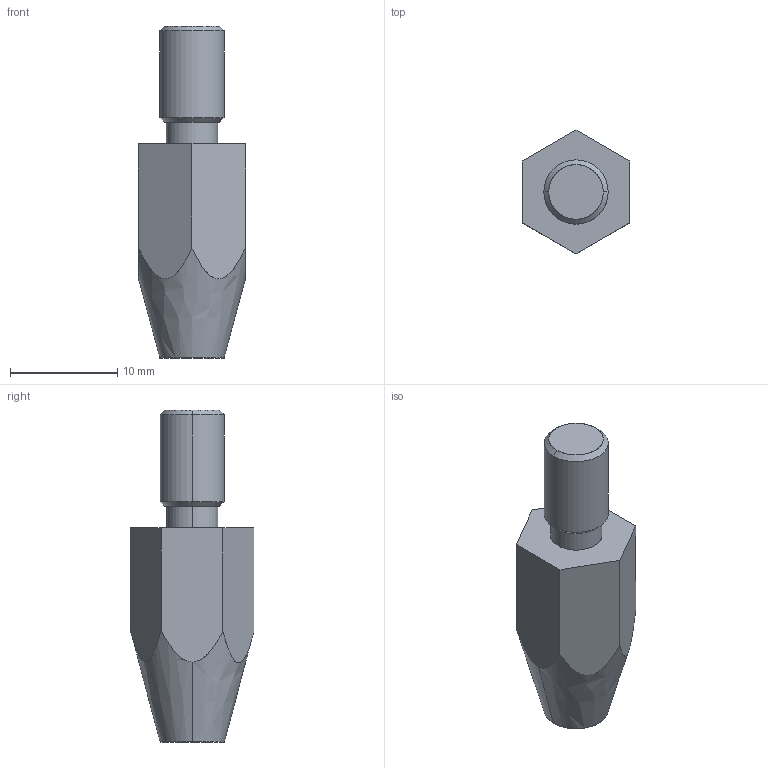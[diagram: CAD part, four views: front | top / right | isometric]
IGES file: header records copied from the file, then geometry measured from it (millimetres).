
Start section: SolidWorks IGES FILE using analytic representation for surfaces
Global section: file name: C:\WIX2\Positioning\3600\3600W062.igs; native system: SolidWorks 2003 by SolidWorks Corporation; preprocessor: Version 5.3; author: Joan; date: 030722.164457; units: millimetre
Bounding box: 10 x 11.55 x 31 mm (x, y, z)
Surface area: 949.9 mm2 (no closed solid volume)
Topology: 0 solids, 0 shells, 20 faces, 318 edges, 318 vertices
Faces by surface type: revolution 10, bspline 10
